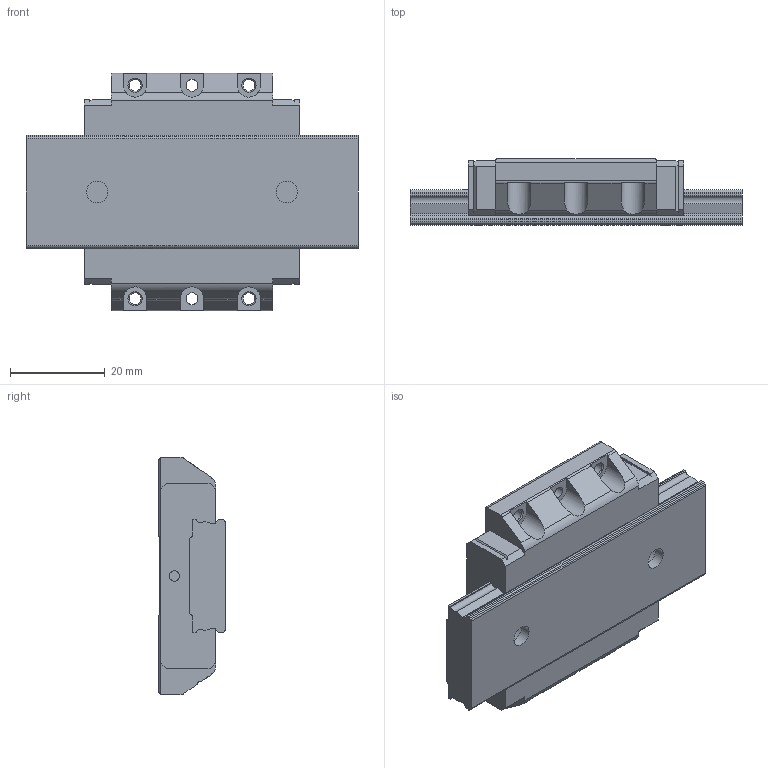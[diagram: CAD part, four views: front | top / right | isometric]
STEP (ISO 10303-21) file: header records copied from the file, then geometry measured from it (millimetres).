
FILE_DESCRIPTION(/* description */ ('STEP AP203'),/* implementation_level */ '2;1');
FILE_NAME(/* name */ 'SHW14CA1SSM-70LM_G15_0_Without_grease_nipple_12-25_0_0_01',/* time_stamp */ '2024-05-17T08:17:44+02:00',/* author */ ('License CC BY-ND 4.0'),/* organization */ ('CADENAS'),/* preprocessor_version */ 'ST-DEVELOPER v19.3',/* originating_system */ 'PARTsolutions',/* authorisation */ ' ');
FILE_SCHEMA (('CONFIG_CONTROL_DESIGN'));
Length unit declared in the file: millimetre
Products named in the file (4): SHW14CA1SSM-70LM_G15_0_Without_grease_nipple_12-25_0_0_01; SHW14CAM7015 Track; SHW14CAMSS1 Slide12-50; -SHW_grease_nipple_joint
Assembly tree (3 placements, depth 2):
  SHW14CA1SSM-70LM_G15_0_Without_grease_nipple_12-25_0_0_01
    SHW14CAM7015 Track
    SHW14CAMSS1 Slide12-50
    -SHW_grease_nipple_joint
Bounding box: 70 x 14 x 50 mm (x, y, z)
Volume: 29381.8 mm3; surface area: 12041.8 mm2
Topology: 2 solids, 2 shells, 182 faces, 522 edges, 349 vertices
Faces by surface type: plane 106, cylinder 68, cone 8
Full cylindrical faces by diameter (mm): 2.2 x2, 2.5 x6, 4.5 x2, 7.5 x2
Entity records: 5980 total; most frequent: CARTESIAN_POINT 1093, DIRECTION 1008, ORIENTED_EDGE 988, EDGE_CURVE 494, AXIS2_PLACEMENT_3D 346, VERTEX_POINT 340, LINE 316, VECTOR 316
